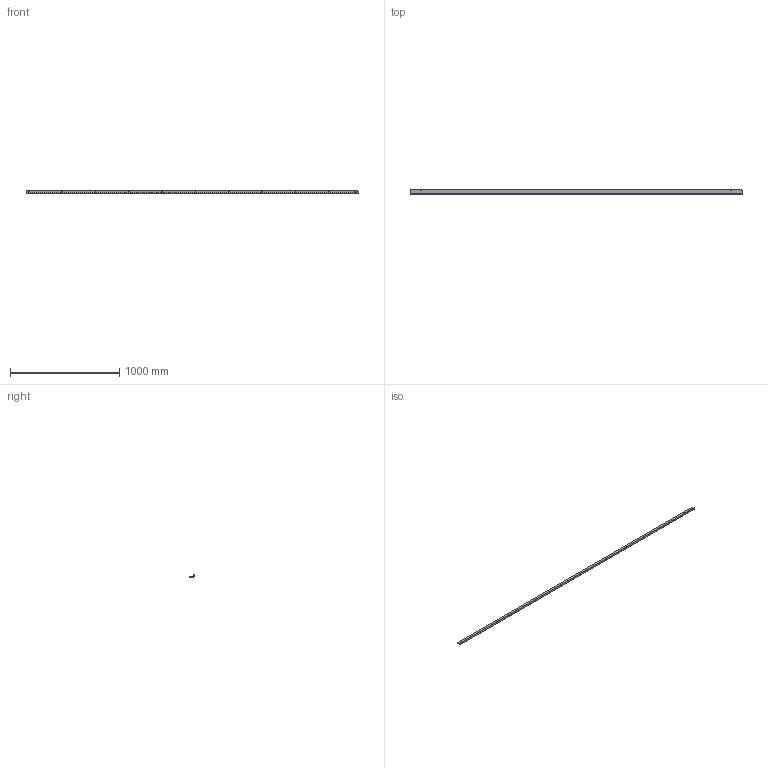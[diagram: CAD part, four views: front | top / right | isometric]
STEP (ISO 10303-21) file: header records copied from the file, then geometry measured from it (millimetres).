
FILE_DESCRIPTION((''),'2;1');
FILE_NAME('C:\Vault_Workspace\Inventor_Dwg\Inv-1\1100BA\WEBSITE\1100BA2120.stp','2015-02-02T15:07:28',('MichaelA'),(''),'Autodesk Inventor 2012','Autodesk Inventor 2012','');
FILE_SCHEMA(('AUTOMOTIVE_DESIGN { 1 0 10303 214 1 1 1 1 }'));
Length unit declared in the file: inch
Products named in the file (1): 1100BA-MASTER
Bounding box: 3035.3 x 38.1 x 19.05 mm (x, y, z)
Volume: 233034.7 mm3; surface area: 342632.6 mm2
Topology: 1 solids, 1 shells, 31 faces, 79 edges, 50 vertices
Faces by surface type: cylinder 19, plane 12
Full cylindrical faces by diameter (mm): 4.496 x2, 7.137 x11
Entity records: 962 total; most frequent: DIRECTION 168, CARTESIAN_POINT 148, ORIENTED_EDGE 132, AXIS2_PLACEMENT_3D 70, EDGE_LOOP 70, EDGE_CURVE 66, VERTEX_POINT 50, FACE_BOUND 39
